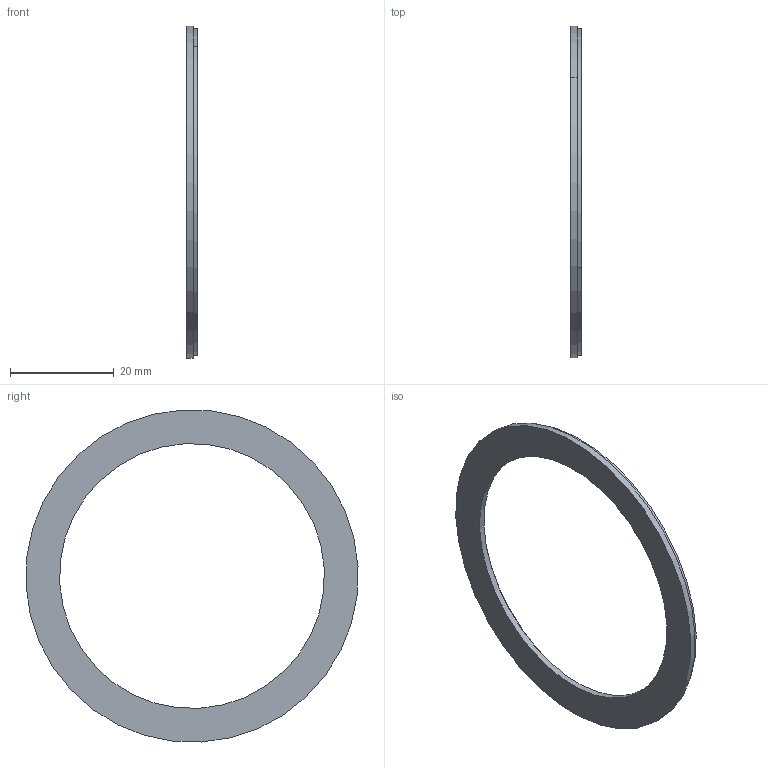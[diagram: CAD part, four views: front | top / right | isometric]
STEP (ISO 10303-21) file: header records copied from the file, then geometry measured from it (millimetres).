
FILE_DESCRIPTION (( 'STEP AP214' ), '1' );
FILE_NAME ('MRA064BG051.STEP', '2026-10-26T08:11:18', ( '' ), ( '' ), 'SwSTEP 2.0', 'SolidWorks 2024', '' );
FILE_SCHEMA (( 'AUTOMOTIVE_DESIGN' ));
Length unit declared in the file: millimetre
Products named in the file (3): MRA064BG051; MRA064_elastoferit; MRA064BG051_brez_EF
Assembly tree (2 placements, depth 2):
  MRA064BG051
    MRA064BG051_brez_EF
    MRA064_elastoferit
Bounding box: 2 x 63.89 x 63.89 mm (x, y, z)
Volume: 2137.9 mm3; surface area: 4895.5 mm2
Topology: 2 solids, 2 shells, 12 faces, 24 edges, 16 vertices
Faces by surface type: cylinder 8, plane 4
Entity records: 486 total; most frequent: DIRECTION 74, CARTESIAN_POINT 57, ORIENTED_EDGE 48, AXIS2_PLACEMENT_3D 33, EDGE_CURVE 24, CIRCLE 16, VERTEX_POINT 16, EDGE_LOOP 16
